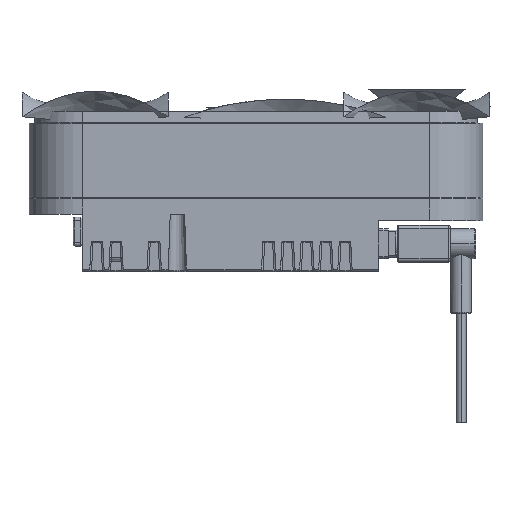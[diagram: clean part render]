
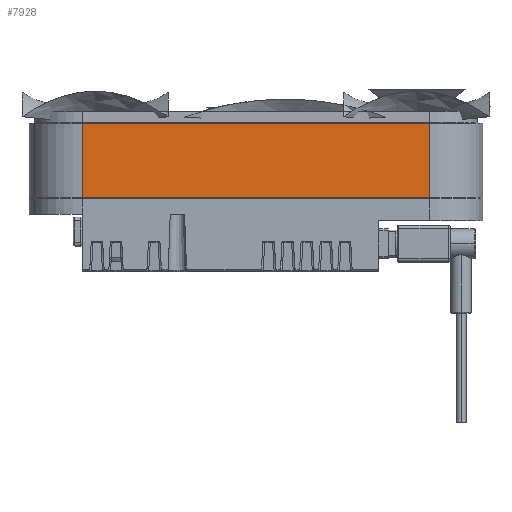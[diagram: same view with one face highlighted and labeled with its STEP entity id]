
A CAD part, front view. The second image highlights one B-rep face of the part: STEP entity #7928.
In plain terms, the highlighted planar face has unit normal (0, -1, 0).
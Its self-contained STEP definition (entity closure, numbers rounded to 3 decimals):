
#452=DIRECTION('',(1.,0.,0.));
#453=VECTOR('',#452,95.);
#454=CARTESIAN_POINT('',(-47.5,-14.5,-22.35));
#455=LINE('',#454,#453);
#505=DIRECTION('',(0.,0.,1.));
#506=VECTOR('',#505,20.25);
#507=CARTESIAN_POINT('',(47.5,-14.5,-22.35));
#508=LINE('',#507,#506);
#526=DIRECTION('',(0.,0.,-1.));
#527=VECTOR('',#526,20.25);
#528=CARTESIAN_POINT('',(-47.5,-14.5,-2.1));
#529=LINE('',#528,#527);
#619=DIRECTION('',(-1.,0.,0.));
#620=VECTOR('',#619,95.);
#621=CARTESIAN_POINT('',(47.5,-14.5,-2.1));
#622=LINE('',#621,#620);
#7443=CARTESIAN_POINT('',(47.5,-14.5,-2.1));
#7445=VERTEX_POINT('',#7443);
#7446=CARTESIAN_POINT('',(47.5,-14.5,-22.35));
#7448=VERTEX_POINT('',#7446);
#7450=CARTESIAN_POINT('',(-47.5,-14.5,-22.35));
#7451=VERTEX_POINT('',#7450);
#7458=CARTESIAN_POINT('',(-47.5,-14.5,-2.1));
#7460=VERTEX_POINT('',#7458);
#7915=CARTESIAN_POINT('',(-62.,-14.5,0.));
#7916=DIRECTION('',(0.,-1.,0.));
#7917=DIRECTION('',(1.,0.,0.));
#7918=AXIS2_PLACEMENT_3D('',#7915,#7916,#7917);
#7919=PLANE('',#7918);
#7920=ORIENTED_EDGE('',*,*,#7851,.F.);
#7922=ORIENTED_EDGE('',*,*,#7921,.F.);
#7924=ORIENTED_EDGE('',*,*,#7923,.F.);
#7925=ORIENTED_EDGE('',*,*,#7907,.F.);
#7926=EDGE_LOOP('',(#7920,#7922,#7924,#7925));
#7927=FACE_OUTER_BOUND('',#7926,.F.);
#7928=ADVANCED_FACE('',(#7927),#7919,.T.);
#7851=EDGE_CURVE('',#7451,#7448,#455,.T.);
#7907=EDGE_CURVE('',#7448,#7445,#508,.T.);
#7921=EDGE_CURVE('',#7460,#7451,#529,.T.);
#7923=EDGE_CURVE('',#7445,#7460,#622,.T.);
